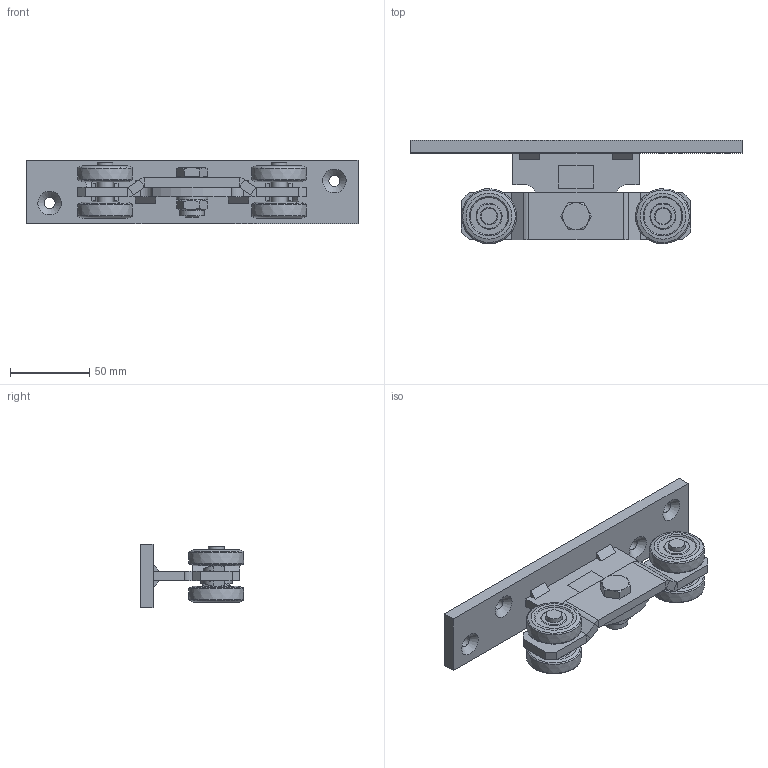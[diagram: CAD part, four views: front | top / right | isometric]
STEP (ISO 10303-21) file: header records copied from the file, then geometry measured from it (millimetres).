
FILE_DESCRIPTION(/* description */ ('Doppelrolle mit Flansch Nr.2'),/* implementation_level */ '2;1');
FILE_NAME(/* name */ 'Q:\sge-ma\Produktmanagement-STB\STB\Workspace\TraceParts\Doppelrolle mit Flanschpendel\010336994.stp',/* time_stamp */ '2018-02-22T16:15:13+01:00',/* author */ ('avschreier'),/* organization */ (''),/* preprocessor_version */ 'ST-DEVELOPER v16.1',/* originating_system */ 'Autodesk Inventor 2016',/* authorisation */ '');
FILE_SCHEMA (('CONFIG_CONTROL_DESIGN'));
Length unit declared in the file: millimetre
Products named in the file (11): 010336994_Schweißnähte; 000302061; 337000121; 000302003; 000303236; 336290020; 000304013; DIN_EN_ISO_7040-M10_en; DIN_EN_ISO_7090-10,5_en; DIN_EN_ISO_4017-M10x25_en; 010336994
Assembly tree (17 placements, depth 2):
  010336994
    010336994_Schweißnähte
    000302061
    337000121
    000302003
    000303236  x4
    336290020  x4
    000304013  x2
    DIN_EN_ISO_7040-M10_en
    DIN_EN_ISO_7090-10,5_en
    DIN_EN_ISO_4017-M10x25_en
Bounding box: 210 x 65.33 x 40 mm (x, y, z)
Volume: 152299.9 mm3; surface area: 60521.4 mm2
Topology: 20 solids, 20 shells, 380 faces, 869 edges, 550 vertices
Faces by surface type: plane 232, cylinder 52, cone 50, bspline 36, torus 10
Full cylindrical faces by diameter (mm): 7 x4, 8.376 x1, 9.188 x1, 10 x7, 10.1 x1, 10.3 x1, 10.5 x1, 12 x2, 15.4 x1, 15.6 x1, 20 x1
Entity records: 6774 total; most frequent: CARTESIAN_POINT 2124, DIRECTION 936, ORIENTED_EDGE 826, EDGE_CURVE 413, AXIS2_PLACEMENT_3D 340, VERTEX_POINT 280, EDGE_LOOP 273, LINE 256
